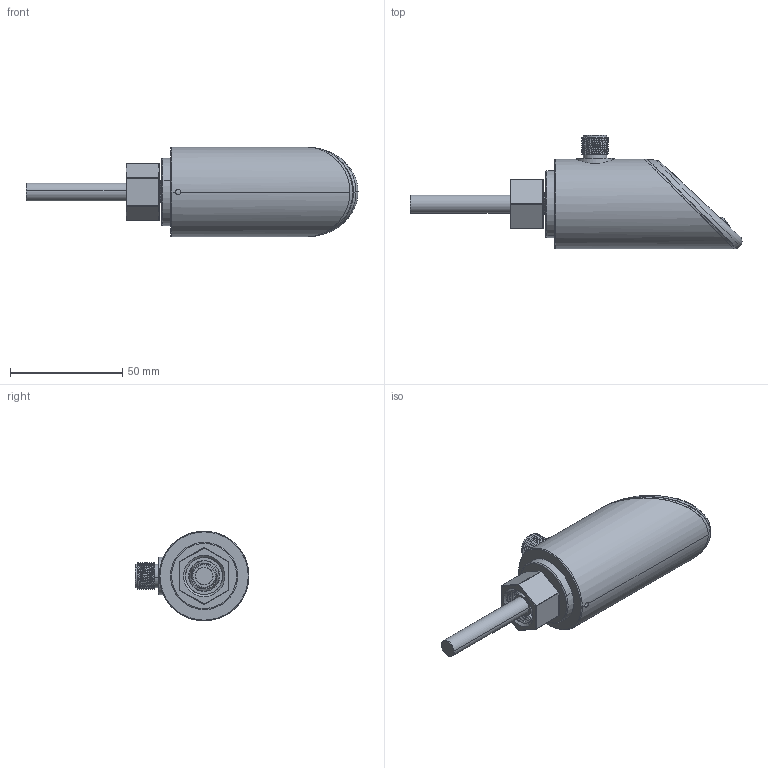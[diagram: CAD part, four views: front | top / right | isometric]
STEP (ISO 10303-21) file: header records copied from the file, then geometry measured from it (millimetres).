
FILE_DESCRIPTION (( 'STEP AP214' ), '1' );
FILE_NAME ('陔鎮枃18MN.STEP', '2024-07-17T00:55:59', ( '' ), ( '' ), 'SwSTEP 2.0', 'SolidWorks 2023', '' );
FILE_SCHEMA (( 'AUTOMOTIVE_DESIGN' ));
Length unit declared in the file: millimetre
Products named in the file (11): 附件1 新马蹄面板模具; 新马蹄18MN; 09 - M12针套（5针）; 03 - M12盘装插座; 06 - 18MN螺母; 05 - 18MN探杆; 101 - 马蹄部分; 102 - 18MN探头; 02 - 新马蹄接18探杆; 01 - 新马蹄; 10 - 数码管
Assembly tree (10 placements, depth 3):
  新马蹄18MN
    101 - 马蹄部分
      附件1 新马蹄面板模具
      10 - 数码管
      01 - 新马蹄
      03 - M12盘装插座
      09 - M12针套（5针）
    102 - 18MN探头
      02 - 新马蹄接18探杆
      05 - 18MN探杆
    06 - 18MN螺母
Bounding box: 148.18 x 50.8 x 40 mm (x, y, z)
Volume: 38583.1 mm3; surface area: 43150 mm2
Topology: 31 solids, 31 shells, 1550 faces, 3921 edges, 2566 vertices
Faces by surface type: plane 989, bspline 263, cylinder 228, torus 28, cone 24, sphere 18
Entity records: 64352 total; most frequent: CARTESIAN_POINT 28370, ORIENTED_EDGE 7806, DIRECTION 6292, EDGE_CURVE 3903, VECTOR 2768, LINE 2768, VERTEX_POINT 2560, AXIS2_PLACEMENT_3D 1762
